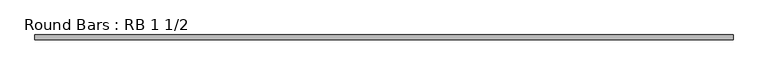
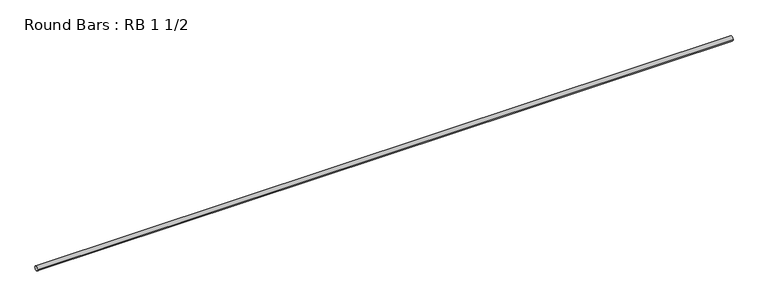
"""IFC4 building model written with IfcOpenShell, lengths in millimetres: member geometry, Round Bars : RB 1 1/2."""

from ifc_helpers import new_model, si_unit, point, frame, origin, origin_2d, place, context, project, spatial, circle_curve, trimmed, segment, composite_curve, outline, extrude, source, transform, mapped, element, save


def round_bars_rb_1_1_2_125b7e9d(model_context):
    return source(origin(), model_context, "Body", "SweptSolid", [
        extrude(outline(composite_curve([segment(trimmed(circle_curve(origin_2d(), 19.05), [point((19.05, 0.0))], [point((-19.05, 0.0))], False, "CARTESIAN"), True, "CONTINUOUS"), segment(trimmed(circle_curve(origin_2d(), 19.05), [point((-19.05, 0.0))], [point((19.05, 0.0))], False, "CARTESIAN"), True, "CONTINUOUS")], self_intersect=False)), frame((-2834.556627, 0.0, 0.0), z_axis=(1.0, 0.0, 0.0), x_axis=(0.0, 1.0, 0.0)), (0.0, 0.0, 1.0), 5669.1132541),
    ])


if __name__ == "__main__":
    model = new_model("IFC4")
    model_context = context("Model", 3, world=origin())
    ifc_project = project(units=[si_unit("LENGTHUNIT", "METRE", prefix="MILLI")], contexts=[model_context])
    site = spatial("IfcSite", under=ifc_project)
    building = spatial("IfcBuilding", under=site)
    placement = place(None, origin())
    round_bars_rb_1_1_2_shape = round_bars_rb_1_1_2_125b7e9d(model_context)
    element("IfcMember", 1, ObjectType="Round Bars : RB 1 1/2", at=placement, inside=building, context=model_context, shape_type="MappedRepresentation", body=[
        mapped(round_bars_rb_1_1_2_shape, transform((0.0, 0.0, 0.0), x_axis=(1.0, 0.0, 0.0), y_axis=(0.0, 1.0, 0.0), z_axis=(0.0, 0.0, 1.0))),
    ])
    save(model, "model.ifc")
